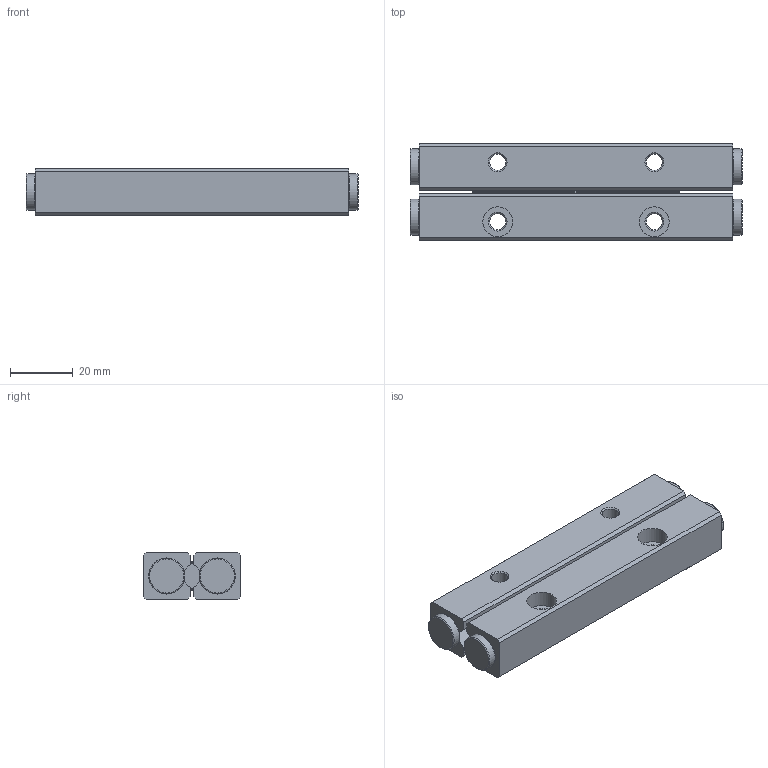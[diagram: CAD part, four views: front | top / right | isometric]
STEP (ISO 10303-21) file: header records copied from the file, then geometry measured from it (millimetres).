
FILE_DESCRIPTION(/* description */ ('STEP AP214'),/* implementation_level */ '2;1');
FILE_NAME(/* name */ 'VRG6ME-100-Hx8Z (0)',/* time_stamp */ '2024-09-19T10:10:09+02:00',/* author */ ('License CC BY-ND 4.0'),/* organization */ ('CADENAS'),/* preprocessor_version */ 'ST-DEVELOPER v19.3',/* originating_system */ 'PARTsolutions',/* authorisation */ ' ');
FILE_SCHEMA (('AUTOMOTIVE_DESIGN {1 0 10303 214 3 1 1}'));
Length unit declared in the file: millimetre
Products named in the file (4): VRG6ME-100-Hx8Z (0); VRG6ME-100x8Z R1; VRG6ME-100x8Z8C1; VRG6ME-100x8Z R2
Assembly tree (3 placements, depth 2):
  VRG6ME-100-Hx8Z (0)
    VRG6ME-100x8Z R1
    VRG6ME-100x8Z8C1
    VRG6ME-100x8Z R2
Bounding box: 106 x 31 x 15 mm (x, y, z)
Volume: 43000.5 mm3; surface area: 16617.5 mm2
Topology: 3 solids, 3 shells, 214 faces, 700 edges, 464 vertices
Faces by surface type: plane 130, cylinder 44, cone 32, torus 8
Full cylindrical faces by diameter (mm): 5.2 x4, 9.5 x4, 11.5 x4
Entity records: 8605 total; most frequent: CARTESIAN_POINT 1538, ORIENTED_EDGE 1272, DIRECTION 1204, EDGE_CURVE 636, VERTEX_POINT 444, AXIS2_PLACEMENT_3D 430, LINE 344, VECTOR 344
